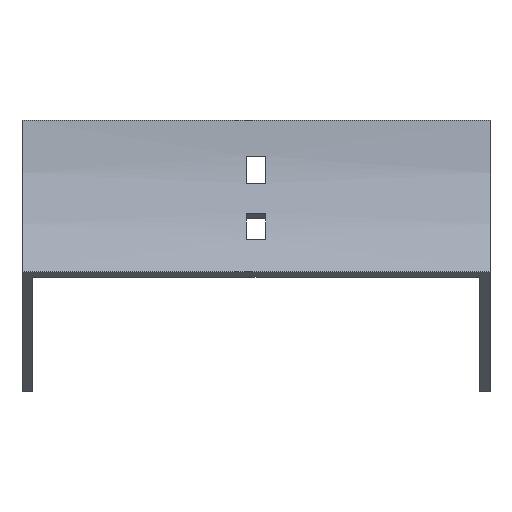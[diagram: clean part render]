
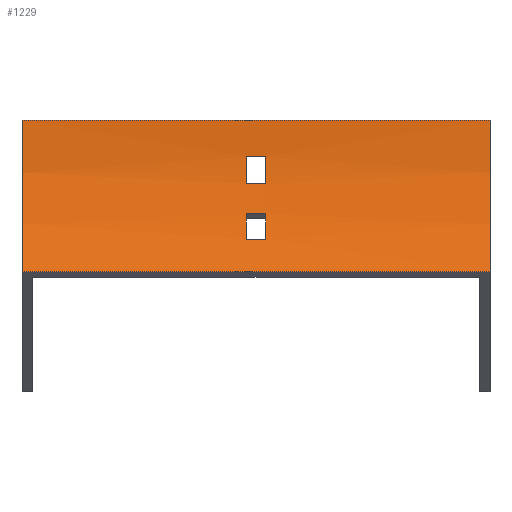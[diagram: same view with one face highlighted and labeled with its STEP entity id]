
A CAD part, front view. The second image highlights one B-rep face of the part: STEP entity #1229.
In plain terms, the highlighted cylindrical face has radius 100 mm (diameter 200 mm), a partial arc.
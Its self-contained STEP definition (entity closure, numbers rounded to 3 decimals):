
#18 = ORIENTED_EDGE ( 'NONE', *, *, #488, .F. ) ;
#29 = CIRCLE ( 'NONE', #767, 100. ) ;
#45 = CYLINDRICAL_SURFACE ( 'NONE', #1529, 100. ) ;
#83 = CARTESIAN_POINT ( 'NONE',  ( -3.25, -100., 0. ) ) ;
#88 = DIRECTION ( 'NONE',  ( 0., 0., -1. ) ) ;
#100 = CARTESIAN_POINT ( 'NONE',  ( -3.25, -100., 0. ) ) ;
#104 = VERTEX_POINT ( 'NONE', #1397 ) ;
#119 = ORIENTED_EDGE ( 'NONE', *, *, #622, .T. ) ;
#157 = VERTEX_POINT ( 'NONE', #609 ) ;
#166 = EDGE_CURVE ( 'NONE', #1130, #651, #29, .T. ) ;
#183 = CARTESIAN_POINT ( 'NONE',  ( 77., -13.397, -50. ) ) ;
#200 = DIRECTION ( 'NONE',  ( 1., 0., 0. ) ) ;
#207 = DIRECTION ( 'NONE',  ( -1., 0., 0. ) ) ;
#219 = CIRCLE ( 'NONE', #359, 100. ) ;
#235 = CARTESIAN_POINT ( 'NONE',  ( -3.25, -0.723, -12. ) ) ;
#292 = EDGE_CURVE ( 'NONE', #830, #456, #803, .T. ) ;
#320 = EDGE_LOOP ( 'NONE', ( #545, #677, #119, #1287 ) ) ;
#356 = VECTOR ( 'NONE', #531, 1000. ) ;
#359 = AXIS2_PLACEMENT_3D ( 'NONE', #436, #405, #560 ) ;
#364 = CARTESIAN_POINT ( 'NONE',  ( 77., -4.829, -30.699 ) ) ;
#372 = EDGE_CURVE ( 'NONE', #1278, #499, #1406, .T. ) ;
#398 = DIRECTION ( 'NONE',  ( -1., 0., 0. ) ) ;
#404 = LINE ( 'NONE', #652, #1474 ) ;
#405 = DIRECTION ( 'NONE',  ( -1., 0., 0. ) ) ;
#417 = DIRECTION ( 'NONE',  ( 1., 0., 0. ) ) ;
#424 = DIRECTION ( 'NONE',  ( -1., 0., 0. ) ) ;
#436 = CARTESIAN_POINT ( 'NONE',  ( -77., -100., 0. ) ) ;
#450 = CARTESIAN_POINT ( 'NONE',  ( 77., -100., 0. ) ) ;
#455 = DIRECTION ( 'NONE',  ( 0., 0., 1. ) ) ;
#456 = VERTEX_POINT ( 'NONE', #955 ) ;
#482 = EDGE_CURVE ( 'NONE', #483, #104, #998, .T. ) ;
#483 = VERTEX_POINT ( 'NONE', #626 ) ;
#488 = EDGE_CURVE ( 'NONE', #483, #819, #878, .T. ) ;
#494 = CARTESIAN_POINT ( 'NONE',  ( 77., -100., 0. ) ) ;
#499 = VERTEX_POINT ( 'NONE', #1026 ) ;
#522 = VERTEX_POINT ( 'NONE', #235 ) ;
#531 = DIRECTION ( 'NONE',  ( 1., 0., 0. ) ) ;
#545 = ORIENTED_EDGE ( 'NONE', *, *, #292, .T. ) ;
#546 = VECTOR ( 'NONE', #888, 1000. ) ;
#560 = DIRECTION ( 'NONE',  ( 0., 0., 1. ) ) ;
#582 = DIRECTION ( 'NONE',  ( 1., 0., 0. ) ) ;
#595 = EDGE_CURVE ( 'NONE', #499, #1130, #1378, .T. ) ;
#609 = CARTESIAN_POINT ( 'NONE',  ( 3.25, -0.723, -12. ) ) ;
#622 = EDGE_CURVE ( 'NONE', #522, #157, #404, .T. ) ;
#623 = EDGE_CURVE ( 'NONE', #819, #1627, #1173, .T. ) ;
#626 = CARTESIAN_POINT ( 'NONE',  ( 77., 0., 0. ) ) ;
#635 = CARTESIAN_POINT ( 'NONE',  ( 77., -8.023, -39.246 ) ) ;
#638 = ORIENTED_EDGE ( 'NONE', *, *, #623, .F. ) ;
#651 = VERTEX_POINT ( 'NONE', #1166 ) ;
#652 = CARTESIAN_POINT ( 'NONE',  ( 77., -0.723, -12. ) ) ;
#655 = VECTOR ( 'NONE', #207, 1000. ) ;
#667 = EDGE_CURVE ( 'NONE', #651, #1278, #1453, .T. ) ;
#673 = CARTESIAN_POINT ( 'NONE',  ( -77., -13.397, -50. ) ) ;
#676 = EDGE_LOOP ( 'NONE', ( #1170, #638, #18, #1274 ) ) ;
#677 = ORIENTED_EDGE ( 'NONE', *, *, #898, .T. ) ;
#686 = AXIS2_PLACEMENT_3D ( 'NONE', #1098, #582, #455 ) ;
#702 = FACE_BOUND ( 'NONE', #320, .T. ) ;
#767 = AXIS2_PLACEMENT_3D ( 'NONE', #100, #1266, #88 ) ;
#803 = LINE ( 'NONE', #1579, #1417 ) ;
#812 = CARTESIAN_POINT ( 'NONE',  ( 3.25, -2.23, -21. ) ) ;
#819 = VERTEX_POINT ( 'NONE', #183 ) ;
#820 = FACE_OUTER_BOUND ( 'NONE', #676, .T. ) ;
#830 = VERTEX_POINT ( 'NONE', #812 ) ;
#835 = EDGE_CURVE ( 'NONE', #157, #830, #1408, .T. ) ;
#846 = CARTESIAN_POINT ( 'NONE',  ( -3.25, -4.829, -30.699 ) ) ;
#865 = ORIENTED_EDGE ( 'NONE', *, *, #166, .F. ) ;
#869 = CARTESIAN_POINT ( 'NONE',  ( 3.25, -8.023, -39.246 ) ) ;
#878 = CIRCLE ( 'NONE', #1503, 100. ) ;
#888 = DIRECTION ( 'NONE',  ( -1., 0., 0. ) ) ;
#898 = EDGE_CURVE ( 'NONE', #456, #522, #939, .T. ) ;
#923 = CARTESIAN_POINT ( 'NONE',  ( 77., -13.397, -50. ) ) ;
#939 = CIRCLE ( 'NONE', #1388, 100. ) ;
#953 = DIRECTION ( 'NONE',  ( 0., 0., -1. ) ) ;
#955 = CARTESIAN_POINT ( 'NONE',  ( -3.25, -2.23, -21. ) ) ;
#998 = LINE ( 'NONE', #1652, #546 ) ;
#1026 = CARTESIAN_POINT ( 'NONE',  ( 3.25, -4.829, -30.699 ) ) ;
#1048 = ORIENTED_EDGE ( 'NONE', *, *, #372, .F. ) ;
#1098 = CARTESIAN_POINT ( 'NONE',  ( 3.25, -100., 0. ) ) ;
#1130 = VERTEX_POINT ( 'NONE', #846 ) ;
#1166 = CARTESIAN_POINT ( 'NONE',  ( -3.25, -8.023, -39.246 ) ) ;
#1170 = ORIENTED_EDGE ( 'NONE', *, *, #1552, .T. ) ;
#1172 = VECTOR ( 'NONE', #1314, 1000. ) ;
#1173 = LINE ( 'NONE', #923, #1172 ) ;
#1226 = FACE_BOUND ( 'NONE', #1582, .T. ) ;
#1229 = ADVANCED_FACE ( 'NONE', ( #820, #702, #1226 ), #45, .F. ) ;
#1265 = DIRECTION ( 'NONE',  ( 0., 0., 1. ) ) ;
#1266 = DIRECTION ( 'NONE',  ( -1., 0., 0. ) ) ;
#1274 = ORIENTED_EDGE ( 'NONE', *, *, #482, .T. ) ;
#1278 = VERTEX_POINT ( 'NONE', #869 ) ;
#1287 = ORIENTED_EDGE ( 'NONE', *, *, #835, .T. ) ;
#1300 = ORIENTED_EDGE ( 'NONE', *, *, #595, .F. ) ;
#1313 = ORIENTED_EDGE ( 'NONE', *, *, #667, .F. ) ;
#1314 = DIRECTION ( 'NONE',  ( -1., 0., 0. ) ) ;
#1378 = LINE ( 'NONE', #364, #655 ) ;
#1388 = AXIS2_PLACEMENT_3D ( 'NONE', #83, #200, #1645 ) ;
#1397 = CARTESIAN_POINT ( 'NONE',  ( -77., 0., 0. ) ) ;
#1402 = DIRECTION ( 'NONE',  ( -1., 0., 0. ) ) ;
#1406 = CIRCLE ( 'NONE', #686, 100. ) ;
#1408 = CIRCLE ( 'NONE', #1638, 100. ) ;
#1417 = VECTOR ( 'NONE', #398, 1000. ) ;
#1453 = LINE ( 'NONE', #635, #356 ) ;
#1474 = VECTOR ( 'NONE', #417, 1000. ) ;
#1482 = DIRECTION ( 'NONE',  ( 0., 0., 1. ) ) ;
#1503 = AXIS2_PLACEMENT_3D ( 'NONE', #494, #1402, #1265 ) ;
#1529 = AXIS2_PLACEMENT_3D ( 'NONE', #450, #1615, #1482 ) ;
#1552 = EDGE_CURVE ( 'NONE', #104, #1627, #219, .T. ) ;
#1579 = CARTESIAN_POINT ( 'NONE',  ( 77., -2.23, -21. ) ) ;
#1582 = EDGE_LOOP ( 'NONE', ( #865, #1300, #1048, #1313 ) ) ;
#1597 = CARTESIAN_POINT ( 'NONE',  ( 3.25, -100., 0. ) ) ;
#1615 = DIRECTION ( 'NONE',  ( -1., 0., 0. ) ) ;
#1627 = VERTEX_POINT ( 'NONE', #673 ) ;
#1638 = AXIS2_PLACEMENT_3D ( 'NONE', #1597, #424, #953 ) ;
#1645 = DIRECTION ( 'NONE',  ( 0., 0., 1. ) ) ;
#1652 = CARTESIAN_POINT ( 'NONE',  ( 77., 0., 0. ) ) ;
